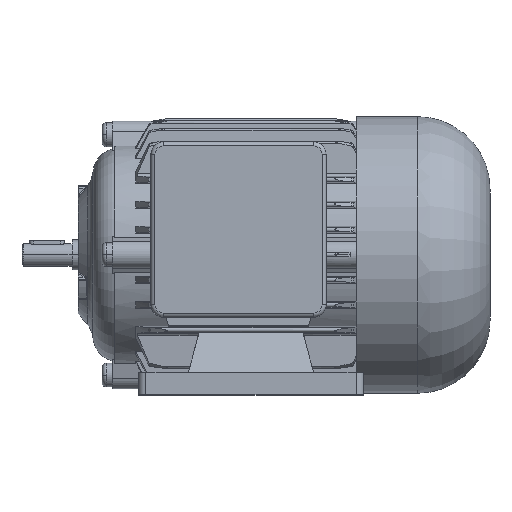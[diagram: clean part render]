
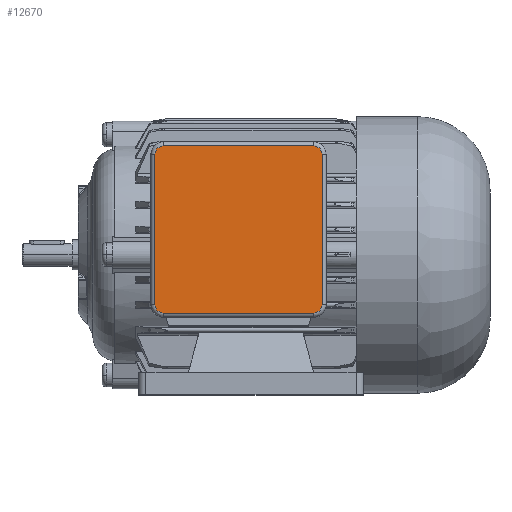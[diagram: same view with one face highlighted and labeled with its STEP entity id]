
A CAD part, top view. The second image highlights one B-rep face of the part: STEP entity #12670.
In plain terms, the highlighted planar face has unit normal (0, 0, 1) as drawn and (0, 1, 0) by its records, which use the part's own axes.
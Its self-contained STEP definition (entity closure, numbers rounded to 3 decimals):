
#11920=CARTESIAN_POINT('',(425.074,642.143,
52.867));
#11930=DIRECTION('',(0.,1.,0.));
#11940=DIRECTION('',(0.,0.,-1.));
#11950=AXIS2_PLACEMENT_3D('',#11920,#11930,#11940);
#11960=PLANE('',#11950);
#11970=CARTESIAN_POINT('',(456.872,642.143,
25.8));
#11980=DIRECTION('',(0.,-1.,0.));
#11990=DIRECTION('',(-1.,0.,0.));
#12000=AXIS2_PLACEMENT_3D('',#11970,#11980,#11990);
#12010=CIRCLE('',#12000,3.4);
#12020=CARTESIAN_POINT('',(456.872,642.143,
22.4));
#12030=VERTEX_POINT('',#12020);
#12040=CARTESIAN_POINT('',(460.272,642.143,
25.8));
#12050=VERTEX_POINT('',#12040);
#12060=EDGE_CURVE('',#12030,#12050,#12010,.T.);
#12070=ORIENTED_EDGE('',*,*,#12060,.F.);
#12080=CARTESIAN_POINT('',(460.272,642.143,
0.));
#12090=DIRECTION('',(0.,0.,-1.));
#12100=VECTOR('',#12090,1.);
#12110=LINE('',#12080,#12100);
#12120=CARTESIAN_POINT('',(460.272,642.143,
85.8));
#12130=VERTEX_POINT('',#12120);
#12140=EDGE_CURVE('',#12130,#12050,#12110,.T.);
#12150=ORIENTED_EDGE('',*,*,#12140,.T.);
#12160=CARTESIAN_POINT('',(456.872,642.143,
85.8));
#12170=DIRECTION('',(0.,-1.,0.));
#12180=DIRECTION('',(-1.,0.,0.));
#12190=AXIS2_PLACEMENT_3D('',#12160,#12170,#12180);
#12200=CIRCLE('',#12190,3.4);
#12210=CARTESIAN_POINT('',(456.872,642.143,
89.2));
#12220=VERTEX_POINT('',#12210);
#12230=EDGE_CURVE('',#12130,#12220,#12200,.T.);
#12240=ORIENTED_EDGE('',*,*,#12230,.F.);
#12250=CARTESIAN_POINT('',(0.,642.143,
89.2));
#12260=DIRECTION('',(1.,0.,0.));
#12270=VECTOR('',#12260,1.);
#12280=LINE('',#12250,#12270);
#12290=CARTESIAN_POINT('',(396.872,642.143,
89.2));
#12300=VERTEX_POINT('',#12290);
#12310=EDGE_CURVE('',#12300,#12220,#12280,.T.);
#12320=ORIENTED_EDGE('',*,*,#12310,.T.);
#12330=CARTESIAN_POINT('',(396.872,642.143,
85.8));
#12340=DIRECTION('',(0.,-1.,0.));
#12350=DIRECTION('',(-1.,0.,0.));
#12360=AXIS2_PLACEMENT_3D('',#12330,#12340,#12350);
#12370=CIRCLE('',#12360,3.4);
#12380=CARTESIAN_POINT('',(393.472,642.143,
85.8));
#12390=VERTEX_POINT('',#12380);
#12400=EDGE_CURVE('',#12300,#12390,#12370,.T.);
#12410=ORIENTED_EDGE('',*,*,#12400,.F.);
#12420=CARTESIAN_POINT('',(393.472,642.143,
0.));
#12430=DIRECTION('',(0.,0.,1.));
#12440=VECTOR('',#12430,1.);
#12450=LINE('',#12420,#12440);
#12460=CARTESIAN_POINT('',(393.472,642.143,
25.8));
#12470=VERTEX_POINT('',#12460);
#12480=EDGE_CURVE('',#12470,#12390,#12450,.T.);
#12490=ORIENTED_EDGE('',*,*,#12480,.T.);
#12500=CARTESIAN_POINT('',(396.872,642.143,
25.8));
#12510=DIRECTION('',(0.,1.,0.));
#12520=DIRECTION('',(1.,0.,0.));
#12530=AXIS2_PLACEMENT_3D('',#12500,#12510,#12520);
#12540=CIRCLE('',#12530,3.4);
#12550=CARTESIAN_POINT('',(396.872,642.143,
22.4));
#12560=VERTEX_POINT('',#12550);
#12570=EDGE_CURVE('',#12560,#12470,#12540,.T.);
#12580=ORIENTED_EDGE('',*,*,#12570,.T.);
#12590=CARTESIAN_POINT('',(0.,642.143,
22.4));
#12600=DIRECTION('',(-1.,0.,0.));
#12610=VECTOR('',#12600,1.);
#12620=LINE('',#12590,#12610);
#12630=EDGE_CURVE('',#12030,#12560,#12620,.T.);
#12640=ORIENTED_EDGE('',*,*,#12630,.T.);
#12650=EDGE_LOOP('',(#12640,#12580,#12490,#12410,#12320,#12240,#12150,
#12070));
#12660=FACE_OUTER_BOUND('',#12650,.T.);
#12670=ADVANCED_FACE('',(#12660),#11960,.T.);
